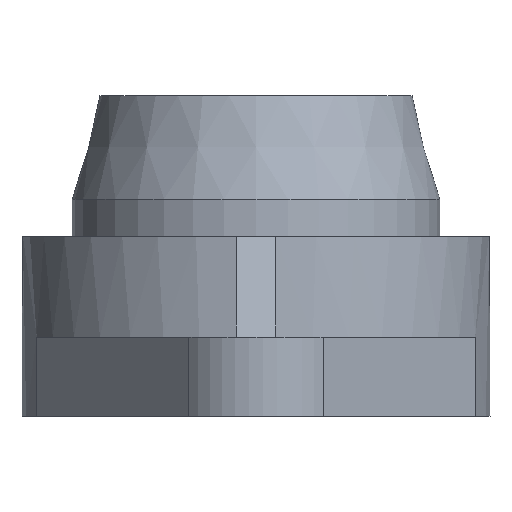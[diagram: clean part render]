
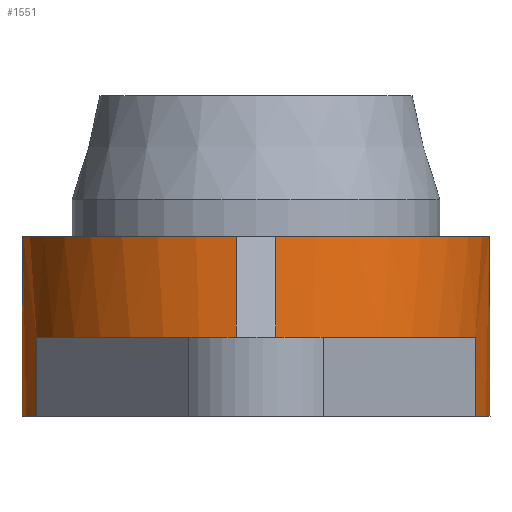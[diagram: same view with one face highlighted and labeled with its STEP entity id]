
A CAD part, front view. The second image highlights one B-rep face of the part: STEP entity #1551.
In plain terms, the highlighted cylindrical face has radius 47.5 mm (diameter 95 mm), a partial arc.
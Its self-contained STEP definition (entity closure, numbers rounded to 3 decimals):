
#130=FACE_BOUND('',#254,.T.);
#161=FACE_OUTER_BOUND('',#253,.T.);
#253=EDGE_LOOP('',(#1037,#1038,#1039,#1040,#1041,#1042,#1043,#1044));
#254=EDGE_LOOP('',(#1045,#1046));
#369=B_SPLINE_CURVE_WITH_KNOTS('',3,(#2498,#2499,#2500,#2501,#2502,#2503,
#2504,#2505,#2506,#2507,#2508,#2509,#2510,#2511,#2512,#2513,#2514,#2515),
 .UNSPECIFIED.,.F.,.F.,(4,2,2,2,2,2,2,2,4),(0.375,0.469,
0.563,0.656,0.75,0.844,
0.938,1.032,1.125),.UNSPECIFIED.);
#370=B_SPLINE_CURVE_WITH_KNOTS('',3,(#2516,#2517,#2518,#2519,#2520,#2521,
#2522,#2523,#2524,#2525,#2526,#2527,#2528,#2529,#2530,#2531,#2532,#2533,
#2534),.UNSPECIFIED.,.F.,.F.,(4,2,2,2,3,2,2,2,4),(1.125,1.219,
1.313,1.407,1.5,1.594,1.688,
1.782,1.876),.UNSPECIFIED.);
#382=LINE('',#2482,#468);
#383=LINE('',#2486,#469);
#384=LINE('',#2490,#470);
#385=LINE('',#2494,#471);
#468=VECTOR('',#1968,10.);
#469=VECTOR('',#1971,10.);
#470=VECTOR('',#1974,10.);
#471=VECTOR('',#1977,10.);
#560=CIRCLE('',#1758,47.5);
#561=CIRCLE('',#1759,47.5);
#562=CIRCLE('',#1760,47.5);
#563=CIRCLE('',#1761,47.5);
#658=VERTEX_POINT('',#2480);
#659=VERTEX_POINT('',#2481);
#660=VERTEX_POINT('',#2483);
#661=VERTEX_POINT('',#2485);
#662=VERTEX_POINT('',#2487);
#663=VERTEX_POINT('',#2489);
#664=VERTEX_POINT('',#2491);
#665=VERTEX_POINT('',#2493);
#666=VERTEX_POINT('',#2496);
#667=VERTEX_POINT('',#2497);
#812=EDGE_CURVE('',#658,#659,#382,.T.);
#813=EDGE_CURVE('',#660,#659,#560,.T.);
#814=EDGE_CURVE('',#661,#660,#383,.T.);
#815=EDGE_CURVE('',#661,#662,#561,.T.);
#816=EDGE_CURVE('',#662,#663,#384,.T.);
#817=EDGE_CURVE('',#664,#663,#562,.T.);
#818=EDGE_CURVE('',#664,#665,#385,.T.);
#819=EDGE_CURVE('',#665,#658,#563,.T.);
#820=EDGE_CURVE('',#666,#667,#369,.T.);
#821=EDGE_CURVE('',#667,#666,#370,.T.);
#1037=ORIENTED_EDGE('',*,*,#812,.T.);
#1038=ORIENTED_EDGE('',*,*,#813,.F.);
#1039=ORIENTED_EDGE('',*,*,#814,.F.);
#1040=ORIENTED_EDGE('',*,*,#815,.T.);
#1041=ORIENTED_EDGE('',*,*,#816,.T.);
#1042=ORIENTED_EDGE('',*,*,#817,.F.);
#1043=ORIENTED_EDGE('',*,*,#818,.T.);
#1044=ORIENTED_EDGE('',*,*,#819,.T.);
#1045=ORIENTED_EDGE('',*,*,#820,.T.);
#1046=ORIENTED_EDGE('',*,*,#821,.T.);
#1466=CYLINDRICAL_SURFACE('',#1757,47.5);
#1551=ADVANCED_FACE('',(#161,#130),#1466,.T.);
#1757=AXIS2_PLACEMENT_3D('',#2479,#1966,#1967);
#1758=AXIS2_PLACEMENT_3D('',#2484,#1969,#1970);
#1759=AXIS2_PLACEMENT_3D('',#2488,#1972,#1973);
#1760=AXIS2_PLACEMENT_3D('',#2492,#1975,#1976);
#1761=AXIS2_PLACEMENT_3D('',#2495,#1978,#1979);
#1966=DIRECTION('center_axis',(0.,0.,1.));
#1967=DIRECTION('ref_axis',(0.,1.,0.));
#1968=DIRECTION('',(0.,0.,-1.));
#1969=DIRECTION('center_axis',(0.,0.,
-1.));
#1970=DIRECTION('ref_axis',(-1.,0.,0.));
#1971=DIRECTION('',(0.,0.,1.));
#1972=DIRECTION('center_axis',(0.,0.,1.));
#1973=DIRECTION('ref_axis',(0.937,-0.35,0.));
#1974=DIRECTION('',(0.,0.,1.));
#1975=DIRECTION('center_axis',(0.,0.,
-1.));
#1976=DIRECTION('ref_axis',(-1.,0.,0.));
#1977=DIRECTION('',(0.,0.,1.));
#1978=DIRECTION('center_axis',(0.,0.,-1.));
#1979=DIRECTION('ref_axis',(-1.,0.,0.));
#2479=CARTESIAN_POINT('Origin',(0.,0.,-21.7));
#2480=CARTESIAN_POINT('',(4.,-47.331,14.8));
#2481=CARTESIAN_POINT('',(4.,-47.331,-5.6));
#2482=CARTESIAN_POINT('',(4.,-47.331,-21.7));
#2483=CARTESIAN_POINT('',(44.5,-16.613,-5.6));
#2484=CARTESIAN_POINT('Origin',(0.,0.,-5.6));
#2485=CARTESIAN_POINT('',(44.5,-16.613,-21.7));
#2486=CARTESIAN_POINT('',(44.5,-16.613,-21.7));
#2487=CARTESIAN_POINT('',(-44.5,-16.613,-21.7));
#2488=CARTESIAN_POINT('Origin',(0.,0.,-21.7));
#2489=CARTESIAN_POINT('',(-44.5,-16.613,-5.6));
#2490=CARTESIAN_POINT('',(-44.5,-16.613,-21.7));
#2491=CARTESIAN_POINT('',(-4.,-47.331,-5.6));
#2492=CARTESIAN_POINT('Origin',(0.,0.,-5.6));
#2493=CARTESIAN_POINT('',(-4.,-47.331,14.8));
#2494=CARTESIAN_POINT('',(-4.,-47.331,-21.7));
#2495=CARTESIAN_POINT('Origin',(0.,0.,14.8));
#2496=CARTESIAN_POINT('',(-33.588,33.588,2.811));
#2497=CARTESIAN_POINT('',(-33.588,33.588,7.789));
#2498=CARTESIAN_POINT('Ctrl Pts',(-33.588,33.588,2.811));
#2499=CARTESIAN_POINT('Ctrl Pts',(-33.367,33.809,2.811));
#2500=CARTESIAN_POINT('Ctrl Pts',(-33.128,34.042,2.873));
#2501=CARTESIAN_POINT('Ctrl Pts',(-32.686,34.467,3.128));
#2502=CARTESIAN_POINT('Ctrl Pts',(-32.482,34.659,3.319));
#2503=CARTESIAN_POINT('Ctrl Pts',(-32.158,34.959,3.761));
#2504=CARTESIAN_POINT('Ctrl Pts',(-32.016,35.089,4.041));
#2505=CARTESIAN_POINT('Ctrl Pts',(-31.828,35.26,4.654));
#2506=CARTESIAN_POINT('Ctrl Pts',(-31.781,35.301,4.987));
#2507=CARTESIAN_POINT('Ctrl Pts',(-31.781,35.301,5.613));
#2508=CARTESIAN_POINT('Ctrl Pts',(-31.828,35.26,5.946));
#2509=CARTESIAN_POINT('Ctrl Pts',(-32.016,35.089,6.559));
#2510=CARTESIAN_POINT('Ctrl Pts',(-32.158,34.959,6.839));
#2511=CARTESIAN_POINT('Ctrl Pts',(-32.482,34.659,7.281));
#2512=CARTESIAN_POINT('Ctrl Pts',(-32.686,34.467,7.472));
#2513=CARTESIAN_POINT('Ctrl Pts',(-33.128,34.042,7.727));
#2514=CARTESIAN_POINT('Ctrl Pts',(-33.367,33.809,7.789));
#2515=CARTESIAN_POINT('Ctrl Pts',(-33.588,33.588,7.789));
#2516=CARTESIAN_POINT('Ctrl Pts',(-33.588,33.588,7.789));
#2517=CARTESIAN_POINT('Ctrl Pts',(-33.809,33.367,7.789));
#2518=CARTESIAN_POINT('Ctrl Pts',(-34.042,33.128,7.727));
#2519=CARTESIAN_POINT('Ctrl Pts',(-34.467,32.686,7.472));
#2520=CARTESIAN_POINT('Ctrl Pts',(-34.659,32.482,7.281));
#2521=CARTESIAN_POINT('Ctrl Pts',(-34.959,32.158,6.839));
#2522=CARTESIAN_POINT('Ctrl Pts',(-35.089,32.016,6.559));
#2523=CARTESIAN_POINT('Ctrl Pts',(-35.26,31.828,5.946));
#2524=CARTESIAN_POINT('Ctrl Pts',(-35.301,31.781,5.613));
#2525=CARTESIAN_POINT('Ctrl Pts',(-35.301,31.781,5.3));
#2526=CARTESIAN_POINT('Ctrl Pts',(-35.301,31.781,4.987));
#2527=CARTESIAN_POINT('Ctrl Pts',(-35.26,31.828,4.654));
#2528=CARTESIAN_POINT('Ctrl Pts',(-35.089,32.016,4.041));
#2529=CARTESIAN_POINT('Ctrl Pts',(-34.959,32.158,3.761));
#2530=CARTESIAN_POINT('Ctrl Pts',(-34.659,32.482,3.319));
#2531=CARTESIAN_POINT('Ctrl Pts',(-34.467,32.686,3.128));
#2532=CARTESIAN_POINT('Ctrl Pts',(-34.042,33.128,2.873));
#2533=CARTESIAN_POINT('Ctrl Pts',(-33.809,33.367,2.811));
#2534=CARTESIAN_POINT('Ctrl Pts',(-33.588,33.588,2.811));
